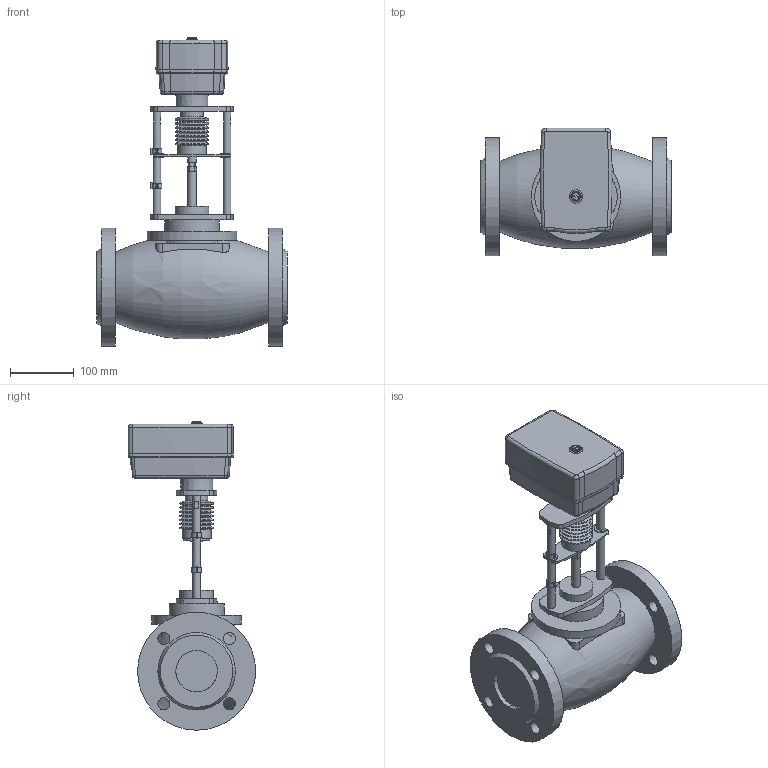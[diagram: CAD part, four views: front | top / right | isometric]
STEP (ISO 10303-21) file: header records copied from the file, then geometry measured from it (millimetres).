
FILE_DESCRIPTION(/* description */ ('Unknown'),/* implementation_level */ '2;1');
FILE_NAME(/* name */ 'Клапан TRV-065-110',/* time_stamp */ '2021-12-06T16:16:41+03:00',/* author */ ('Unknown'),/* organization */ ('Unknown'),/* preprocessor_version */ 'ST-DEVELOPER v16.7',/* originating_system */ 'DEX',/* authorisation */ $);
FILE_SCHEMA (('TECHNICAL_DATA_PACKAGING','AUTOMOTIVE_DESIGN {1 0 10303 214 3 1 1}'));
Length unit declared in the file: millimetre
Products named in the file (1): 抔黽鳧 TRV-065-110
Bounding box: 298 x 199.46 x 483.4 mm (x, y, z)
Volume: 7409509 mm3; surface area: 406579 mm2
Topology: 1 solids, 2 shells, 368 faces, 941 edges, 600 vertices
Faces by surface type: plane 187, cylinder 98, torus 35, cone 31, bspline 13, sphere 4
Full cylindrical faces by diameter (mm): 12.002 x4, 13 x2, 15 x1, 19 x8, 35.098 x1, 45.4 x1, 52.774 x1, 86.309 x1, 140 x1, 185 x2
Entity records: 14128 total; most frequent: CARTESIAN_POINT 2862, DIRECTION 1856, ORIENTED_EDGE 1708, EDGE_CURVE 854, AXIS2_PLACEMENT_3D 722, VERTEX_POINT 569, EDGE_LOOP 473, FACE_BOUND 473
